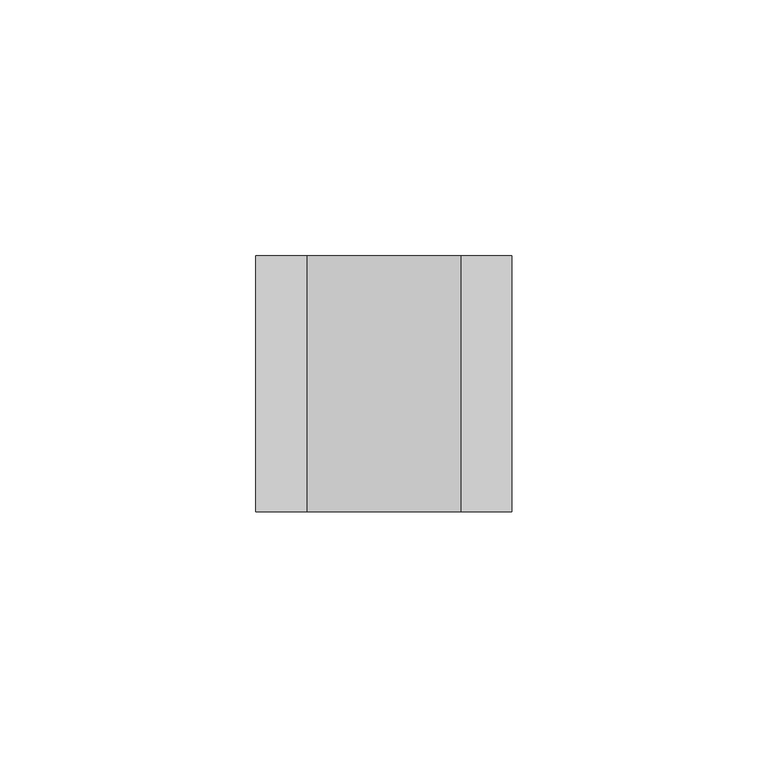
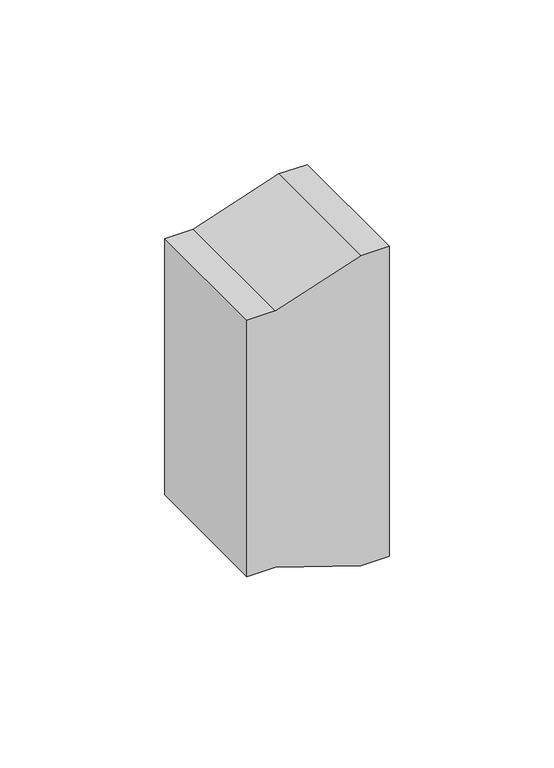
"""IFC4 building model written with IfcOpenShell, lengths in millimetres: duct fitting geometry, КНС_Переход_DKC : Переход."""

from ifc_helpers import new_model, si_unit, frame, origin, place, context, project, spatial, polyline, outline, extrude, source, transform, mapped, element, save


def duct_fitting_b9135774(model_context):
    return source(origin(), model_context, "Body", "SweptSolid", [
        extrude(outline(polyline([(57.5, 50.1665888), (47.5, 20.1665888), (47.5, 10.1665888), (-47.5, 10.1665888), (-47.5, 20.1665888), (-57.5, 50.1665888), (-57.5, 60.1665888), (57.5, 60.1665888), (57.5, 50.1665888)])), frame((0.0, -40.0757244, 0.0), z_axis=(0.0, 1.0, 0.0), x_axis=(0.0, 0.0, 1.0)), (0.0, 0.0, 1.0), 50.0),
    ])


if __name__ == "__main__":
    model = new_model("IFC4")
    model_context = context("Model", 3, world=origin())
    ifc_project = project(units=[si_unit("LENGTHUNIT", "METRE", prefix="MILLI")], contexts=[model_context])
    site = spatial("IfcSite", under=ifc_project)
    building = spatial("IfcBuilding", under=site)
    placement = place(None, origin())
    duct_fitting_shape = duct_fitting_b9135774(model_context)
    element("IfcDuctFitting", 1, ObjectType="КНС_Переход_DKC : Переход", at=placement, inside=building, context=model_context, shape_type="MappedRepresentation", body=[
        mapped(duct_fitting_shape, transform((0.0, 0.0, 0.0), x_axis=(1.0, 0.0, 0.0), y_axis=(0.0, 1.0, 0.0), z_axis=(0.0, 0.0, 1.0))),
    ])
    save(model, "model.ifc")
